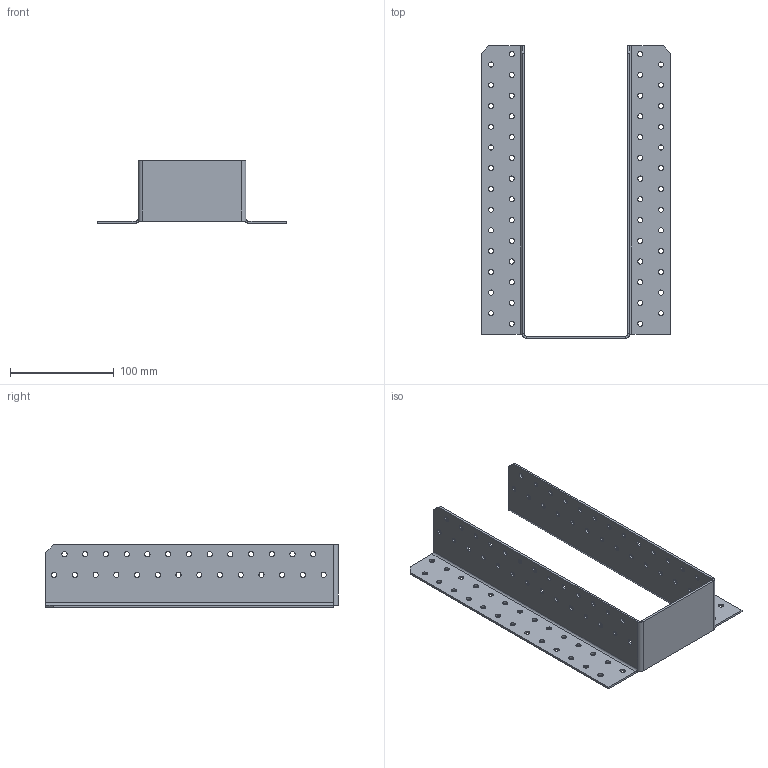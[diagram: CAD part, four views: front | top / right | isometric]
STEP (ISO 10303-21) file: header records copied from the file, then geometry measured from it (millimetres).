
FILE_DESCRIPTION (( 'STEP AP203' ), '1' );
FILE_NAME ('405022.STEP', '2021-04-17T15:57:43', ( '' ), ( '' ), 'SwSTEP 2.0', 'SolidWorks 2013', '' );
FILE_SCHEMA (( 'CONFIG_CONTROL_DESIGN' ));
Length unit declared in the file: millimetre
Products named in the file (1): 405022
Bounding box: 182 x 282 x 60 mm (x, y, z)
Volume: 116448.3 mm3; surface area: 123005.2 mm2
Topology: 1 solids, 1 shells, 260 faces, 744 edges, 486 vertices
Faces by surface type: cylinder 224, plane 36
Entity records: 9227 total; most frequent: DIRECTION 1716, CARTESIAN_POINT 1491, ORIENTED_EDGE 1488, EDGE_CURVE 744, AXIS2_PLACEMENT_3D 711, VERTEX_POINT 486, EDGE_LOOP 476, CIRCLE 450
